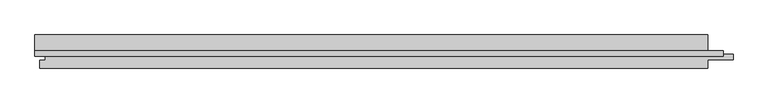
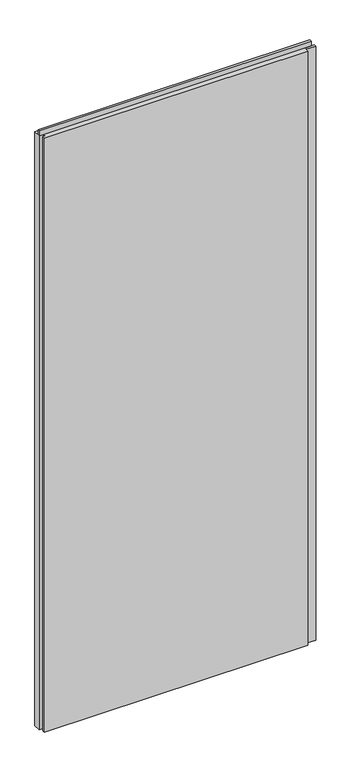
"""IFC4 building model written with IfcOpenShell, lengths in millimetres: plate geometry, Trimo_Qbiss Screen_Normal Panel-VERTICAL : HR - B."""

from ifc_helpers import new_model, si_unit, frame, origin, place, context, project, spatial, polyline, outline, extrude, source, transform, mapped, element, save


def plate_2f00c393(model_context):
    return source(origin(), model_context, "Body", "SweptSolid", [
        extrude(outline(polyline([(491.0, 97.0), (491.0, 102.6), (512.0, 102.6), (512.0, 97.0), (491.0, 97.0)])), frame((0.0, 0.0, 12.5), z_axis=(0.0, 0.0, 1.0), x_axis=(1.0, 0.0, 0.0)), (0.0, 0.0, 1.0), 2375.0),
        extrude(outline(polyline([(-513.0, 93.9), (-513.0, 102.6), (513.0, 102.6), (513.0, 93.9), (-513.0, 93.9)])), frame((0.0, 0.0, 2390.5), z_axis=(0.0, 0.0, 1.0), x_axis=(1.0, 0.0, 0.0)), (0.0, 0.0, 1.0), 19.0),
        extrude(outline(polyline([(490.0, 97.0), (527.5, 97.0), (527.5, 89.0), (490.0, 89.0), (490.0, 76.0), (-506.0, 76.0), (-506.0, 88.0), (-497.5, 88.0), (-497.5, 98.0), (-513.0, 98.0), (-513.0, 126.0), (490.0, 126.0), (490.0, 97.0)])), frame((0.0, 0.0, 12.5), z_axis=(0.0, 0.0, 1.0), x_axis=(1.0, 0.0, 0.0)), (0.0, 0.0, 1.0), 2375.0),
    ])


if __name__ == "__main__":
    model = new_model("IFC4")
    model_context = context("Model", 3, world=origin())
    ifc_project = project(units=[si_unit("LENGTHUNIT", "METRE", prefix="MILLI")], contexts=[model_context])
    site = spatial("IfcSite", under=ifc_project)
    building = spatial("IfcBuilding", under=site)
    placement = place(None, origin())
    plate_shape = plate_2f00c393(model_context)
    element("IfcPlate", 1, ObjectType="Trimo_Qbiss Screen_Normal Panel-VERTICAL : HR - B", at=placement, inside=building, context=model_context, shape_type="MappedRepresentation", body=[
        mapped(plate_shape, transform((0.0, 0.0, 0.0), x_axis=(1.0, 0.0, 0.0), y_axis=(0.0, 1.0, 0.0), z_axis=(0.0, 0.0, 1.0))),
    ])
    save(model, "model.ifc")
